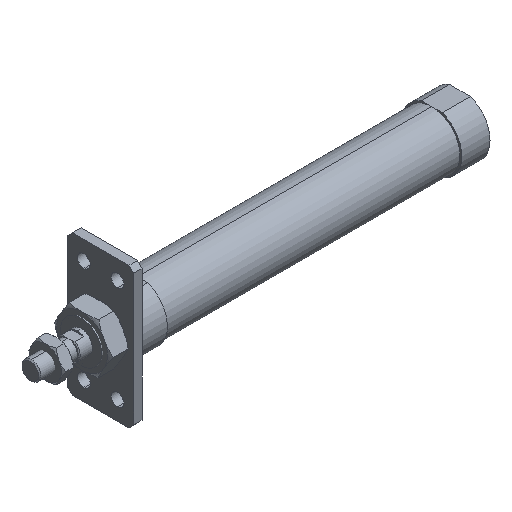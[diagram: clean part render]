
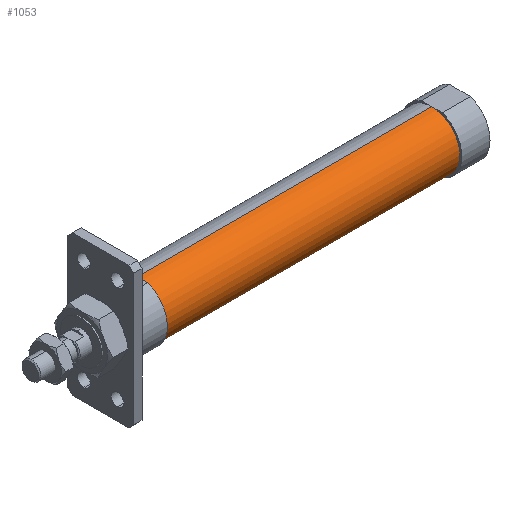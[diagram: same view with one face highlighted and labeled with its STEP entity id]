
A CAD part, isometric view. The second image highlights one B-rep face of the part: STEP entity #1053.
In plain terms, the highlighted cylindrical face has radius 15 mm (diameter 30 mm), a partial arc.
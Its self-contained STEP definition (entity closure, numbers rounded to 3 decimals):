
#143 = CARTESIAN_POINT ( 'NONE',  ( 57., 0., 0. ) ) ;
#164 = VECTOR ( 'NONE', #2305, 1000. ) ;
#173 = ORIENTED_EDGE ( 'NONE', *, *, #3357, .T. ) ;
#365 = LINE ( 'NONE', #1156, #164 ) ;
#386 = DIRECTION ( 'NONE',  ( -1., 0., 0. ) ) ;
#398 = VERTEX_POINT ( 'NONE', #738 ) ;
#420 = CARTESIAN_POINT ( 'NONE',  ( -6.469, 0., 0. ) ) ;
#477 = AXIS2_PLACEMENT_3D ( 'NONE', #1459, #3567, #1758 ) ;
#542 = ORIENTED_EDGE ( 'NONE', *, *, #1184, .F. ) ;
#702 = LINE ( 'NONE', #2417, #1522 ) ;
#738 = CARTESIAN_POINT ( 'NONE',  ( 214., 0., -15. ) ) ;
#857 = CIRCLE ( 'NONE', #2203, 15. ) ;
#1053 = ADVANCED_FACE ( 'NONE', ( #3132 ), #3268, .T. ) ;
#1156 = CARTESIAN_POINT ( 'NONE',  ( -6.469, 0., -15. ) ) ;
#1184 = EDGE_CURVE ( 'NONE', #2068, #3918, #857, .T. ) ;
#1372 = DIRECTION ( 'NONE',  ( 0., 0., 1. ) ) ;
#1427 = ORIENTED_EDGE ( 'NONE', *, *, #2234, .F. ) ;
#1459 = CARTESIAN_POINT ( 'NONE',  ( 214., 0., 0. ) ) ;
#1522 = VECTOR ( 'NONE', #1536, 1000. ) ;
#1536 = DIRECTION ( 'NONE',  ( -1., 0., 0. ) ) ;
#1619 = DIRECTION ( 'NONE',  ( 0., 0., 1. ) ) ;
#1758 = DIRECTION ( 'NONE',  ( 0., 0., 1. ) ) ;
#1981 = CARTESIAN_POINT ( 'NONE',  ( 57., 0., -15. ) ) ;
#2008 = CARTESIAN_POINT ( 'NONE',  ( 57., 0., 15. ) ) ;
#2068 = VERTEX_POINT ( 'NONE', #1981 ) ;
#2203 = AXIS2_PLACEMENT_3D ( 'NONE', #143, #2868, #1372 ) ;
#2234 = EDGE_CURVE ( 'NONE', #398, #2068, #365, .T. ) ;
#2305 = DIRECTION ( 'NONE',  ( -1., 0., 0. ) ) ;
#2417 = CARTESIAN_POINT ( 'NONE',  ( -6.469, 0., 15. ) ) ;
#2868 = DIRECTION ( 'NONE',  ( -1., 0., 0. ) ) ;
#2923 = CIRCLE ( 'NONE', #477, 15. ) ;
#3132 = FACE_OUTER_BOUND ( 'NONE', #3293, .T. ) ;
#3268 = CYLINDRICAL_SURFACE ( 'NONE', #3272, 15. ) ;
#3272 = AXIS2_PLACEMENT_3D ( 'NONE', #420, #386, #1619 ) ;
#3293 = EDGE_LOOP ( 'NONE', ( #1427, #173, #3566, #542 ) ) ;
#3357 = EDGE_CURVE ( 'NONE', #398, #3927, #2923, .T. ) ;
#3566 = ORIENTED_EDGE ( 'NONE', *, *, #3592, .T. ) ;
#3567 = DIRECTION ( 'NONE',  ( -1., 0., 0. ) ) ;
#3592 = EDGE_CURVE ( 'NONE', #3927, #3918, #702, .T. ) ;
#3840 = CARTESIAN_POINT ( 'NONE',  ( 214., 0., 15. ) ) ;
#3918 = VERTEX_POINT ( 'NONE', #2008 ) ;
#3927 = VERTEX_POINT ( 'NONE', #3840 ) ;
